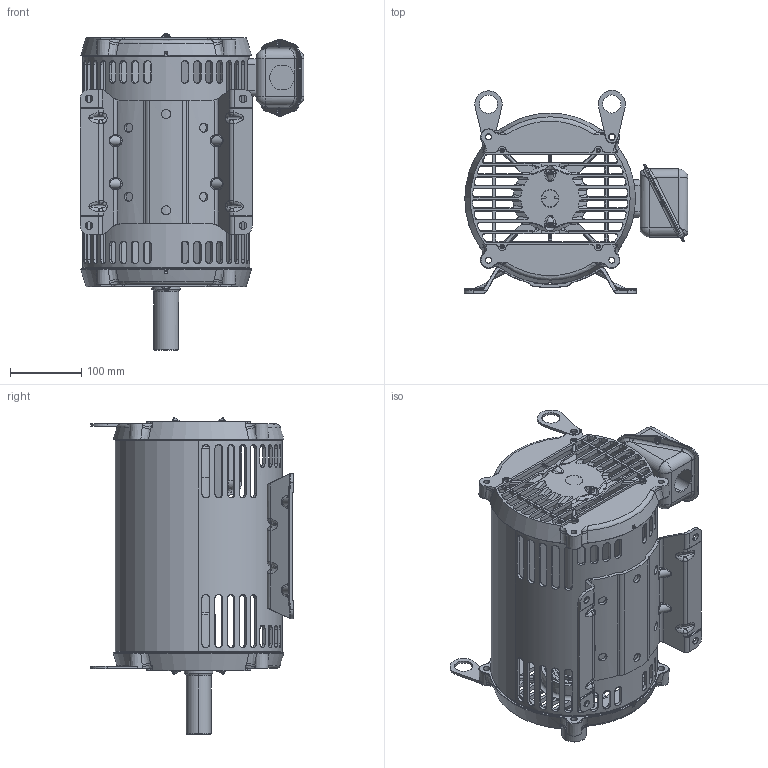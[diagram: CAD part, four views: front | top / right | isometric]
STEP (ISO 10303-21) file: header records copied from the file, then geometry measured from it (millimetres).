
FILE_DESCRIPTION((''),'2;1');
FILE_NAME('213_FULL_ASSY_ASM','2014-07-22T',('NMC779F'),('Nidec Motor Corporation'),'PRO/ENGINEER BY PARAMETRIC TECHNOLOGY CORPORATION, 2013150','PRO/ENGINEER BY PARAMETRIC TECHNOLOGY CORPORATION, 2013150','');
FILE_SCHEMA(('CONFIG_CONTROL_DESIGN'));
Length unit declared in the file: inch
Products named in the file (16): 213_FRAME; 0391764-BKT_AF0; 0298010_AF0; 0391765_ASM; 0391891-BKT_AF0; 0298013_AF0; 0391892_ASM; 0345787; 0398607; 0774783; 0390418; 0390408; 0390417; 0376890; 0370460; 213_FULL_ASSY_ASM
Assembly tree (16 placements, depth 3):
  213_FULL_ASSY_ASM
    213_FRAME
    0391765_ASM
      0391764-BKT_AF0
      0298010_AF0
    0391892_ASM
      0391891-BKT_AF0
      0298013_AF0
    0345787
    0398607
    0774783
    0390418
    0390408
    0390417
    0376890  x2
    0370460
Bounding box: 313.72 x 284.23 x 443.46 mm (x, y, z)
Volume: 2337412.9 mm3; surface area: 994743.4 mm2
Topology: 18 solids, 18 shells, 2170 faces, 5956 edges, 3744 vertices
Faces by surface type: plane 665, cylinder 624, bspline 426, cone 303, torus 136, sphere 16
Entity records: 91998 total; most frequent: CARTESIAN_POINT 40322, ORIENTED_EDGE 11844, DIRECTION 9316, EDGE_CURVE 5922, VERTEX_POINT 3728, AXIS2_PLACEMENT_3D 3456, VECTOR 2404, LINE 2404
